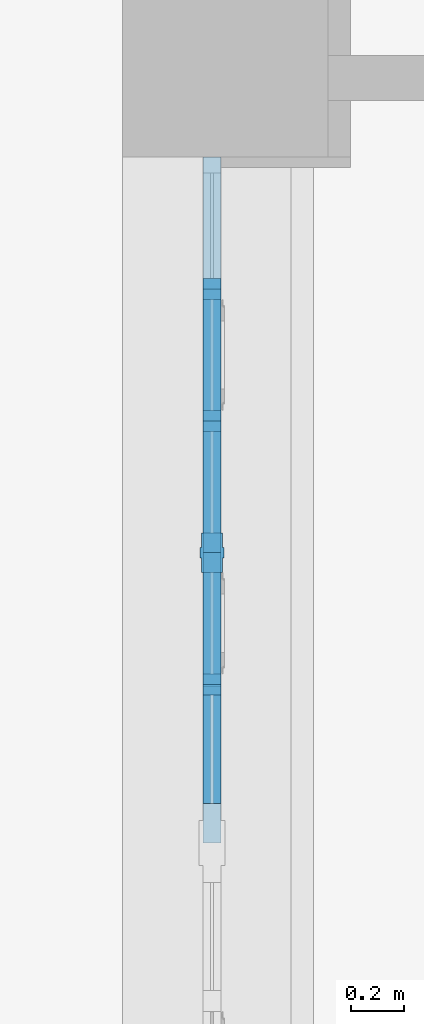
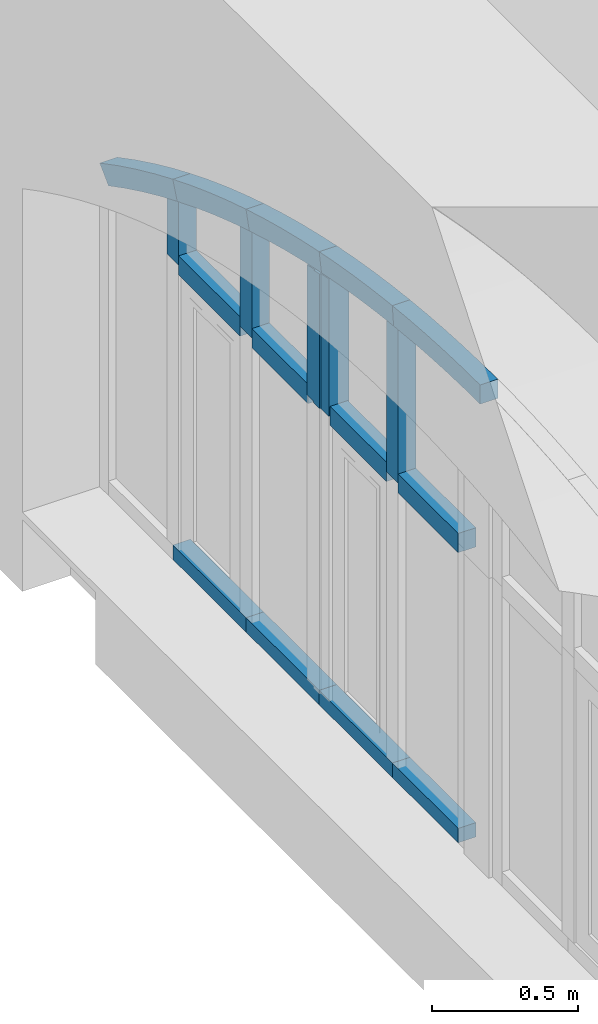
# One storey, part 42 of 88: 17 members, 1 element without a shape of its own.
"""IFC2X3 building model written with IfcOpenShell, lengths in millimetres."""

from ifc_helpers import new_model, entity, si_unit, converted_unit, derived_unit, direction, frame, frame_2d, origin, place, context, subcontext, project, spatial, polyline, circle_curve, parameter, trimmed, segment, composite_curve, rectangle, outline, extrude, faceted_brep, source, transform, mapped, material, type_object, type_shapes, element, aggregate, save


model = new_model("IFC2X3")

# Units and contexts
model_context = context("Model", 3, precision=0.01, world=origin(), true_north=direction((6.123031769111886e-17, 1.0)))
body_context = subcontext(model_context, "Body", "Model", "MODEL_VIEW")
ifc_project = project(units=[si_unit("LENGTHUNIT", "METRE", prefix="MILLI"), si_unit("AREAUNIT", "SQUARE_METRE"), si_unit("VOLUMEUNIT", "CUBIC_METRE"), converted_unit("PLANEANGLEUNIT", "DEGREE", entity("IfcPlaneAngleMeasure", 0.017453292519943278), si_unit("PLANEANGLEUNIT", "RADIAN"), dimensions=[0, 0, 0, 0, 0, 0, 0]), si_unit("MASSUNIT", "GRAM", prefix="KILO"), derived_unit("MASSDENSITYUNIT", [(si_unit("MASSUNIT", "GRAM", prefix="KILO"), 1), (si_unit("LENGTHUNIT", "METRE"), -3)]), derived_unit("IONCONCENTRATIONUNIT", [(si_unit("MASSUNIT", "GRAM", prefix="KILO"), 1), (si_unit("LENGTHUNIT", "METRE"), -3)]), derived_unit("MOMENTOFINERTIAUNIT", [(si_unit("LENGTHUNIT", "METRE"), 4)]), si_unit("TIMEUNIT", "SECOND"), si_unit("FREQUENCYUNIT", "HERTZ"), si_unit("THERMODYNAMICTEMPERATUREUNIT", "DEGREE_CELSIUS"), derived_unit("THERMALTRANSMITTANCEUNIT", [(si_unit("MASSUNIT", "GRAM", prefix="KILO"), 1), (si_unit("THERMODYNAMICTEMPERATUREUNIT", "KELVIN"), -1), (si_unit("TIMEUNIT", "SECOND"), -3)]), derived_unit("THERMALCONDUCTANCEUNIT", [(si_unit("MASSUNIT", "GRAM", prefix="KILO"), 1), (si_unit("THERMODYNAMICTEMPERATUREUNIT", "KELVIN"), -1), (si_unit("TIMEUNIT", "SECOND"), -3), (si_unit("LENGTHUNIT", "METRE"), 1)]), derived_unit("VOLUMETRICFLOWRATEUNIT", [(si_unit("LENGTHUNIT", "METRE", prefix="DECI"), 3), (si_unit("TIMEUNIT", "SECOND"), -1)]), derived_unit("MASSFLOWRATEUNIT", [(si_unit("MASSUNIT", "GRAM", prefix="KILO"), 1), (si_unit("TIMEUNIT", "SECOND"), -1)]), derived_unit("ROTATIONALFREQUENCYUNIT", [(si_unit("TIMEUNIT", "SECOND"), -1)]), si_unit("ELECTRICCURRENTUNIT", "AMPERE"), si_unit("ELECTRICVOLTAGEUNIT", "VOLT"), si_unit("POWERUNIT", "WATT"), si_unit("FORCEUNIT", "NEWTON", prefix="KILO"), si_unit("ILLUMINANCEUNIT", "LUX"), si_unit("LUMINOUSFLUXUNIT", "LUMEN"), si_unit("LUMINOUSINTENSITYUNIT", "CANDELA"), si_unit("ENERGYUNIT", "JOULE"), derived_unit("USERDEFINED", [(si_unit("MASSUNIT", "GRAM", prefix="KILO"), -1), (si_unit("LENGTHUNIT", "METRE"), -2), (si_unit("TIMEUNIT", "SECOND"), 3), (si_unit("LUMINOUSFLUXUNIT", "LUMEN"), 1)]), derived_unit("USERDEFINED", [(si_unit("MASSUNIT", "GRAM", prefix="KILO"), 1), (si_unit("TIMEUNIT", "SECOND"), -3), (si_unit("LENGTHUNIT", "METRE"), 3), (si_unit("ELECTRICCURRENTUNIT", "AMPERE"), -2)]), derived_unit("SOUNDPOWERUNIT", [(si_unit("MASSUNIT", "GRAM", prefix="KILO"), 1), (si_unit("TIMEUNIT", "SECOND"), -3), (si_unit("LENGTHUNIT", "METRE"), 2)]), derived_unit("SOUNDPRESSUREUNIT", [(si_unit("MASSUNIT", "GRAM", prefix="KILO"), 1), (si_unit("LENGTHUNIT", "METRE"), -1), (si_unit("TIMEUNIT", "SECOND"), -2)]), derived_unit("LINEARVELOCITYUNIT", [(si_unit("LENGTHUNIT", "METRE"), 1), (si_unit("TIMEUNIT", "SECOND"), -1)]), si_unit("PRESSUREUNIT", "PASCAL"), derived_unit("USERDEFINED", [(si_unit("MASSUNIT", "GRAM", prefix="KILO"), 1), (si_unit("LENGTHUNIT", "METRE"), -2), (si_unit("TIMEUNIT", "SECOND"), -2)]), derived_unit("LINEARFORCEUNIT", [(si_unit("MASSUNIT", "GRAM", prefix="KILO"), 1), (si_unit("TIMEUNIT", "SECOND"), -2)]), derived_unit("PLANARFORCEUNIT", [(si_unit("MASSUNIT", "GRAM", prefix="KILO"), 1), (si_unit("LENGTHUNIT", "METRE"), -1), (si_unit("TIMEUNIT", "SECOND"), -2)]), derived_unit("SPECIFICHEATCAPACITYUNIT", [(si_unit("THERMODYNAMICTEMPERATUREUNIT", "KELVIN"), -1), (si_unit("LENGTHUNIT", "METRE"), 2), (si_unit("TIMEUNIT", "SECOND"), -2)]), derived_unit("HEATFLUXDENSITYUNIT", [(si_unit("MASSUNIT", "GRAM", prefix="KILO"), 1), (si_unit("TIMEUNIT", "SECOND"), -3)]), derived_unit("HEATINGVALUEUNIT", [(si_unit("LENGTHUNIT", "METRE"), 2), (si_unit("TIMEUNIT", "SECOND"), -2)]), derived_unit("VAPORPERMEABILITYUNIT", [(si_unit("LENGTHUNIT", "METRE"), -1), (si_unit("TIMEUNIT", "SECOND"), 1)]), derived_unit("DYNAMICVISCOSITYUNIT", [(si_unit("MASSUNIT", "GRAM", prefix="KILO"), 1), (si_unit("TIMEUNIT", "SECOND"), -1), (si_unit("LENGTHUNIT", "METRE"), -1)]), derived_unit("THERMALEXPANSIONCOEFFICIENTUNIT", [(si_unit("THERMODYNAMICTEMPERATUREUNIT", "KELVIN"), -1)]), derived_unit("MODULUSOFELASTICITYUNIT", [(si_unit("MASSUNIT", "GRAM", prefix="KILO"), 1), (si_unit("LENGTHUNIT", "METRE"), -1), (si_unit("TIMEUNIT", "SECOND"), -2)]), derived_unit("ISOTHERMALMOISTURECAPACITYUNIT", [(si_unit("MASSUNIT", "GRAM", prefix="KILO"), -1), (si_unit("LENGTHUNIT", "METRE"), 3)]), derived_unit("MOISTUREDIFFUSIVITYUNIT", [(si_unit("TIMEUNIT", "SECOND"), -1), (si_unit("LENGTHUNIT", "METRE"), 2)]), derived_unit("MASSPERLENGTHUNIT", [(si_unit("MASSUNIT", "GRAM", prefix="KILO"), 1), (si_unit("LENGTHUNIT", "METRE"), -1)]), derived_unit("THERMALRESISTANCEUNIT", [(si_unit("MASSUNIT", "GRAM", prefix="KILO"), -1), (si_unit("TIMEUNIT", "SECOND"), 3), (si_unit("THERMODYNAMICTEMPERATUREUNIT", "KELVIN"), 1)]), derived_unit("ACCELERATIONUNIT", [(si_unit("LENGTHUNIT", "METRE"), 1), (si_unit("TIMEUNIT", "SECOND"), -2)]), derived_unit("ANGULARVELOCITYUNIT", [(si_unit("TIMEUNIT", "SECOND"), -1), (si_unit("PLANEANGLEUNIT", "RADIAN"), 1)]), derived_unit("LINEARSTIFFNESSUNIT", [(si_unit("MASSUNIT", "GRAM", prefix="KILO"), 1), (si_unit("TIMEUNIT", "SECOND"), -2)]), derived_unit("WARPINGCONSTANTUNIT", [(si_unit("LENGTHUNIT", "METRE"), 6)]), derived_unit("LINEARMOMENTUNIT", [(si_unit("MASSUNIT", "GRAM", prefix="KILO"), 1), (si_unit("LENGTHUNIT", "METRE"), 1), (si_unit("TIMEUNIT", "SECOND"), -2)]), derived_unit("TORQUEUNIT", [(si_unit("MASSUNIT", "GRAM", prefix="KILO"), 1), (si_unit("LENGTHUNIT", "METRE"), 2), (si_unit("TIMEUNIT", "SECOND"), -2)])], contexts=[model_context])

# Site, building, storey
site_placement = place(None, origin())
site = spatial("IfcSite", under=ifc_project, at=site_placement, Name="Default", CompositionType="ELEMENT")
building_placement = place(site_placement, origin())
building = spatial("IfcBuilding", under=site, at=building_placement, Name="Eesti Rahvusraamatukogu hoone renoveerimise projekteerimistööd", CompositionType="ELEMENT")
storey_placement = place(building_placement, origin())
storey = spatial("IfcBuildingStorey", under=building, at=storey_placement, Name="1. korrus", CompositionType="ELEMENT", Elevation=0.0)

# Curtain wall, members
curtain_wall_type = type_object("IfcCurtainWallType", Name="Curtain Wall:Ak-02", PredefinedType="NOTDEFINED")
curtain_wall_placement = place(storey_placement, origin())
curtain_wall = element("IfcCurtainWall", 1, at=curtain_wall_placement, inside=storey, type_object=curtain_wall_type, Name="Curtain Wall:Ak-02", ObjectType="Curtain Wall:Ak-02")
ifc_material = material(Name="LUMION_dark steel window frames")
member_type_1 = type_object("IfcMemberType", Name="Rectangular Mullion:NEW 80x70mm", PredefinedType="MULLION", material=ifc_material)
shared_shape_1 = source(origin(), body_context, "Body", "SweptSolid", [
    extrude(outline(composite_curve([segment(trimmed(circle_curve(frame_2d((5127.857298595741, 1916.0902897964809), x_axis=(-0.9185017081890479, -0.39541701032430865)), 5520.7156800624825), [parameter(354.2613575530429)], [parameter(359.99999999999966)], True, "PARAMETER"), True, "CONTINUOUS"), segment(polyline([(57.07051603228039, -266.8945992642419), (130.55065268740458, -235.2612384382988)]), True, "CONTINUOUS"), segment(trimmed(circle_curve(frame_2d((5127.857298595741, 1916.0902897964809), x_axis=(-0.9185017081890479, -0.39541701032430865)), 5440.7156800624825), [parameter(354.52804849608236)], [parameter(359.99999999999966)], True, "PARAMETER"), False, "CONTINUOUS"), segment(polyline([(-51.82617782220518, 251.07791885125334), (-135.79499089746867, 251.0779188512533)]), True, "CONTINUOUS")], self_intersect=False)), frame((-53.11529804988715, -35.0, -267.709798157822), z_axis=(0.0, -1.0, 0.0), x_axis=(-0.918501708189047, 0.0, 0.3954170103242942)), (0.0, 0.0, -1.0), 69.99999999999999),
])
type_shapes(member_type_1, [shared_shape_1])
member_1_placement = place(curtain_wall_placement, frame((-36440.0, 41490.0, 3565.5687442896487), z_axis=(0.0, -0.924828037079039, 0.3803854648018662), x_axis=(0.0, 0.3803854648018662, 0.924828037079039)))
member_1 = element("IfcMember", 2, at=member_1_placement, type_object=member_type_1, material=ifc_material, Name="Rectangular Mullion:NEW 80x70mm", ObjectType="Rectangular Mullion:NEW 80x70mm", context=body_context, shape_type="MappedRepresentation", body=[
    mapped(shared_shape_1, transform((0.0, 0.0, 0.0), scale=1.0)),
])
member_type_2 = type_object("IfcMemberType", Name="Rectangular Mullion:NEW 80x70mm", PredefinedType="MULLION", material=ifc_material)
shared_shape_2 = source(origin(), body_context, "Body", "SweptSolid", [
    extrude(outline(composite_curve([segment(polyline([(-52.664386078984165, -263.1530214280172), (27.33561392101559, -263.1530214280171)]), True, "CONTINUOUS"), segment(trimmed(circle_curve(frame_2d((5468.051293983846, -263.1530214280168), x_axis=(-0.9953785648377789, 0.09602870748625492)), 5440.715680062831), [parameter(3.5622212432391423e-13)], [parameter(5.510531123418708)], True, "PARAMETER"), False, "CONTINUOUS"), segment(polyline([(52.479528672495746, 259.31187312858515), (-27.150756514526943, 266.9941697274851)]), True, "CONTINUOUS"), segment(trimmed(circle_curve(frame_2d((5468.051293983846, -263.1530214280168), x_axis=(-0.9953785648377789, 0.09602870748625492)), 5520.715680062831), [parameter(3.5622212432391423e-13)], [parameter(5.510531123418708)], True, "PARAMETER"), True, "CONTINUOUS")], self_intersect=False)), frame((-52.66438607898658, -35.0, -263.1530214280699), z_axis=(0.0, 1.0, 0.0), x_axis=(-0.9953785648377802, 0.0, 0.09602870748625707)), (0.0, 0.0, 1.0), 69.99999999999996),
])
type_shapes(member_type_2, [shared_shape_2])
member_2_placement = place(curtain_wall_placement, frame((-36440.0, 40990.0, 3743.6333100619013), z_axis=(0.0, -0.9570819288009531, 0.28981749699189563), x_axis=(0.0, 0.28981749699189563, 0.9570819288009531)))
member_2 = element("IfcMember", 3, at=member_2_placement, type_object=member_type_2, material=ifc_material, Name="Rectangular Mullion:NEW 80x70mm", ObjectType="Rectangular Mullion:NEW 80x70mm", context=body_context, shape_type="MappedRepresentation", body=[
    mapped(shared_shape_2, transform((0.0, 0.0, 0.0), scale=1.0)),
])
member_type_3 = type_object("IfcMemberType", Name="Rectangular Mullion:NEW 80x70mm", PredefinedType="MULLION", material=ifc_material)
shared_shape_3 = source(origin(), body_context, "Body", "SweptSolid", [
    extrude(outline(composite_curve([segment(polyline([(-51.955427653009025, -255.69780513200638), (28.04457234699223, -255.69780513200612)]), True, "CONTINUOUS"), segment(trimmed(circle_curve(frame_2d((5468.760252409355, -255.69780513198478), x_axis=(-0.9956372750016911, 0.09330818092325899)), 5440.715680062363), [parameter(3.5622212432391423e-13)], [parameter(5.353953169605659)], True, "PARAMETER"), False, "CONTINUOUS"), segment(polyline([(51.78091865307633, 251.96547789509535), (-27.870063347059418, 259.4301323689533)]), True, "CONTINUOUS"), segment(trimmed(circle_curve(frame_2d((5468.760252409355, -255.69780513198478), x_axis=(-0.9956372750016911, 0.09330818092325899)), 5520.715680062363), [parameter(3.5622212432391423e-13)], [parameter(5.353953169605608)], True, "PARAMETER"), True, "CONTINUOUS")], self_intersect=False)), frame((-51.95542765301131, -35.0, -255.69780513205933), z_axis=(0.0, 1.0, 0.0), x_axis=(-0.9956372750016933, 0.0, 0.09330818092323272)), (0.0, 0.0, 1.0), 70.00000000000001),
])
type_shapes(member_type_3, [shared_shape_3])
member_3_placement = place(curtain_wall_placement, frame((-36440.0, 40490.0, 3869.8747326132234), z_axis=(0.0, -0.9799487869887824, 0.19924952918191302), x_axis=(0.0, 0.19924952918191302, 0.9799487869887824)))
member_3 = element("IfcMember", 4, at=member_3_placement, type_object=member_type_3, material=ifc_material, Name="Rectangular Mullion:NEW 80x70mm", ObjectType="Rectangular Mullion:NEW 80x70mm", context=body_context, shape_type="MappedRepresentation", body=[
    mapped(shared_shape_3, transform((0.0, 0.0, 0.0), scale=1.0)),
])
member_type_4 = type_object("IfcMemberType", Name="Rectangular Mullion:NEW 80x70mm", PredefinedType="MULLION", material=ifc_material)
shared_shape_4 = source(origin(), body_context, "Body", "SweptSolid", [
    extrude(outline(composite_curve([segment(polyline([(-51.51245202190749, -250.9261639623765), (28.487547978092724, -250.92616396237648)]), True, "CONTINUOUS"), segment(trimmed(circle_curve(frame_2d((5469.203228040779, -250.92616396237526), x_axis=(-0.99579892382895, 0.0915669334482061)), 5440.715680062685), [parameter(3.5622212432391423e-13)], [parameter(5.2537580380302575)], True, "PARAMETER"), False, "CONTINUOUS"), segment(polyline([(51.344408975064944, 247.26348662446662), (-28.319504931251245, 254.58884130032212)]), True, "CONTINUOUS"), segment(trimmed(circle_curve(frame_2d((5469.203228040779, -250.92616396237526), x_axis=(-0.99579892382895, 0.0915669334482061)), 5520.715680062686), [parameter(3.5622212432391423e-13)], [parameter(5.2537580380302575)], True, "PARAMETER"), True, "CONTINUOUS")], self_intersect=False)), frame((-51.51245202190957, -35.0, -250.92616396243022), z_axis=(0.0, 1.0, 0.0), x_axis=(-0.995798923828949, 0.0, 0.09156693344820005)), (0.0, 0.0, 1.0), 70.00000000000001),
])
type_shapes(member_type_4, [shared_shape_4])
member_4_placement = place(curtain_wall_placement, frame((-36440.0, 39990.0, 3947.8704590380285), z_axis=(0.0, -0.9940766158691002, 0.1086815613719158), x_axis=(0.0, 0.1086815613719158, 0.9940766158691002)))
member_4 = element("IfcMember", 5, at=member_4_placement, type_object=member_type_4, material=ifc_material, Name="Rectangular Mullion:NEW 80x70mm", ObjectType="Rectangular Mullion:NEW 80x70mm", context=body_context, shape_type="MappedRepresentation", body=[
    mapped(shared_shape_4, transform((0.0, 0.0, 0.0), scale=1.0)),
])
member_type_5 = type_object("IfcMemberType", Name="Rectangular Mullion:NEW 80x70mm", PredefinedType="MULLION", material=ifc_material)
shared_shape_5 = source(origin(), body_context, "Body", "SweptSolid", [
    extrude(outline(composite_curve([segment(polyline([(-56.232192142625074, -297.82636877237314), (23.767807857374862, -297.82636877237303)]), True, "CONTINUOUS"), segment(trimmed(circle_curve(frame_2d((5464.483487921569, -297.8263687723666), x_axis=(-0.9940766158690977, 0.10868156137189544)), 5440.715680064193), [parameter(3.5622212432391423e-13)], [parameter(6.239318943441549)], True, "PARAMETER"), False, "CONTINUOUS"), segment(polyline([(55.99525677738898, 293.47910631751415), (-23.53087249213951, 302.1736312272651)]), True, "CONTINUOUS"), segment(trimmed(circle_curve(frame_2d((5464.483487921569, -297.8263687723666), x_axis=(-0.9940766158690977, 0.10868156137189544)), 5520.715680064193), [parameter(3.5622212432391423e-13)], [parameter(6.239318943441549)], True, "PARAMETER"), True, "CONTINUOUS")], self_intersect=False)), frame((-56.232192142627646, -35.0, -297.8263687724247), z_axis=(0.0, 1.0, 0.0), x_axis=(-0.9940766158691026, 0.0, 0.1086815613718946)), (0.0, 0.0, 1.0), 69.99999999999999),
])
type_shapes(member_type_5, [shared_shape_5])
member_5_placement = place(curtain_wall_placement, frame((-36440.0, 39390.0, 3980.5717786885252), z_axis=(0.0, -1.0, 0.0), x_axis=(0.0, 0.0, 1.0)))
member_5 = element("IfcMember", 6, at=member_5_placement, type_object=member_type_5, material=ifc_material, Name="Rectangular Mullion:NEW 80x70mm", ObjectType="Rectangular Mullion:NEW 80x70mm", context=body_context, shape_type="MappedRepresentation", body=[
    mapped(shared_shape_5, transform((0.0, 0.0, 0.0), scale=1.0)),
])
member_type_6 = type_object("IfcMemberType", Name="Rectangular Mullion:NEW 80x70mm", PredefinedType="MULLION", material=ifc_material)
shared_shape_6 = source(origin(), body_context, "Body", "SweptSolid", [
    extrude(outline(composite_curve([segment(polyline([(-151.82490852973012, -33.91383256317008), (113.68279751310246, -33.91383256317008)]), True, "CONTINUOUS"), segment(trimmed(circle_curve(frame_2d((-4921.968809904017, -2093.9138325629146), x_axis=(0.9570819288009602, 0.2898174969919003)), 5440.715680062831), [parameter(5.401610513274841)], [parameter(5.510531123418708)], True, "PARAMETER"), True, "CONTINUOUS"), segment(trimmed(circle_curve(frame_2d((-4921.968809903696, -2093.9138325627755), x_axis=(0.9248280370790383, 0.38038546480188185)), 5440.7156800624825), [parameter(0.0)], [parameter(0.8043376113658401)], True, "PARAMETER"), True, "CONTINUOUS"), segment(polyline([(80.20942675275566, 46.08616743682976), (-151.82490852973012, 46.08616743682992)]), True, "CONTINUOUS"), segment(polyline([(-151.82490852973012, 46.08616743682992), (-151.82490852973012, -33.91383256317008)]), True, "CONTINUOUS")], self_intersect=False)), frame((6.086167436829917, -35.0, -151.82490852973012), z_axis=(0.0, 1.0, 0.0), x_axis=(0.0, 0.0, -1.0)), (0.0, 0.0, 1.0), 69.99999999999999),
])
type_shapes(member_type_6, [shared_shape_6])
member_6_placement = place(curtain_wall_placement, frame((-36440.0, 41490.0, 3230.0), z_axis=(0.0, 0.0, -1.0), x_axis=(0.0, -1.0, 0.0)))
member_6 = element("IfcMember", 7, at=member_6_placement, type_object=member_type_6, material=ifc_material, Name="Rectangular Mullion:NEW 80x70mm", ObjectType="Rectangular Mullion:NEW 80x70mm", context=body_context, shape_type="MappedRepresentation", body=[
    mapped(shared_shape_6, transform((0.0, 0.0, 0.0), scale=1.0)),
])
member_type_7 = type_object("IfcMemberType", Name="Rectangular Mullion:NEW 80x70mm", PredefinedType="MULLION", material=ifc_material)
shared_shape_7 = source(origin(), body_context, "Body", "SweptSolid", [
    extrude(outline(composite_curve([segment(polyline([(-259.34177632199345, -35.36292004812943), (182.78706183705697, -35.36292004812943)]), True, "CONTINUOUS"), segment(trimmed(circle_curve(frame_2d((-5029.485677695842, -1595.3629200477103), x_axis=(0.9799487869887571, 0.19924952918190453)), 5440.715680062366), [parameter(5.169029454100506)], [parameter(5.353953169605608)], True, "PARAMETER"), True, "CONTINUOUS"), segment(trimmed(circle_curve(frame_2d((-5029.48567769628, -1595.362920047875), x_axis=(0.9570819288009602, 0.2898174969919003)), 5440.715680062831), [parameter(0.0)], [parameter(0.6965383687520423)], True, "PARAMETER"), True, "CONTINUOUS"), segment(polyline([(158.17151137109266, 44.63707995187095), (-259.34177632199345, 44.63707995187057)]), True, "CONTINUOUS"), segment(polyline([(-259.34177632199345, 44.63707995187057), (-259.34177632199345, -35.36292004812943)]), True, "CONTINUOUS")], self_intersect=False)), frame((4.637079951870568, -35.0, -259.34177632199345), z_axis=(0.0, 1.0, 0.0), x_axis=(0.0, 0.0, -1.0)), (0.0, 0.0, 1.0), 70.00000000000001),
])
type_shapes(member_type_7, [shared_shape_7])
member_7_placement = place(curtain_wall_placement, frame((-36440.0, 40990.0, 3230.0), z_axis=(0.0, 0.0, -1.0), x_axis=(0.0, -1.0, 0.0)))
member_7 = element("IfcMember", 8, at=member_7_placement, type_object=member_type_7, material=ifc_material, Name="Rectangular Mullion:NEW 80x70mm", ObjectType="Rectangular Mullion:NEW 80x70mm", context=body_context, shape_type="MappedRepresentation", body=[
    mapped(shared_shape_7, transform((0.0, 0.0, 0.0), scale=1.0)),
])
member_type_8 = type_object("IfcMemberType", Name="Rectangular Mullion:NEW 150x90mm", PredefinedType="MULLION", material=ifc_material)
shared_shape_8 = source(origin(), body_context, "Body", "Brep", [
    faceted_brep([(-20.0, -40.0, 0.0), (-20.0, -45.0, 0.0), (20.0, -45.0, 0.0), (20.0, -40.0, 0.0), (75.0, -40.0, 0.0), (75.0, 40.0, 0.0), (20.0, 40.0, 0.0), (20.0, 45.0, 0.0), (-20.0, 45.0, 0.0), (-20.0, 40.0, 0.0), (-75.0, 40.0, 0.0), (-75.0, -40.0, 0.0), (-20.0, 40.0, -554.0449674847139), (-47.51534075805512, 40.0, -548.1824945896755), (-75.0, 40.0, -542.1778237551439), (75.0, 40.0, -573.1474168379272), (47.48603249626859, 40.0, -567.7959127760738), (20.0, 40.0, -562.3027332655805), (-75.0, -40.0, -542.1778237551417), (-47.515340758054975, -40.0, -548.1824945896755), (-20.0, -40.0, -554.0449674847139), (20.0, -40.0, -562.30273326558), (47.48603249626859, -40.0, -567.7959127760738), (75.0, -40.0, -573.1474168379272), (-20.0, -45.0, -554.0449674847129), (-20.0, 45.0, -554.0449674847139), (-2.036281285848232, -45.0, -557.7922042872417), (15.939962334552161, -45.0, -561.4788296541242), (17.969902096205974, -45.0, -561.8911677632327), (20.0, -45.0, -562.3027332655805), (20.0, 45.0, -562.30273326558), (17.969902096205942, 45.0, -561.8911677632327), (15.939962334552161, 45.0, -561.4788296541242), (-2.036281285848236, 45.0, -557.7922042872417), (15.939962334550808, 33.74999999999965, -561.4788296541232), (15.939962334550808, 22.499999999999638, -561.4788296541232), (15.939962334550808, 0.0, -561.4788296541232), (15.939962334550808, -22.500000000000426, -561.4788296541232), (15.939962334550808, -33.75000000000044, -561.4788296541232)], [[[0, 1, 2, 3, 4, 5, 6, 7, 8, 9, 10, 11]], [[10, 9, 12, 13, 14]], [[6, 5, 15, 16, 17]], [[11, 10, 14, 18]], [[0, 11, 18, 19, 20]], [[4, 3, 21, 22, 23]], [[1, 0, 20, 24]], [[9, 8, 25, 12]], [[1, 24, 26, 27, 28, 29, 2]], [[3, 2, 29, 21]], [[7, 6, 17, 30]], [[5, 4, 23, 15]], [[7, 30, 31, 32, 33, 25, 8]], [[26, 33, 32, 34, 35, 36, 37, 38, 27]], [[20, 12, 25, 33, 26, 24]], [[20, 19, 13, 12]], [[19, 18, 14, 13]], [[15, 23, 22, 16]], [[17, 35, 34, 32]], [[21, 27, 38, 37]], [[16, 35, 17]], [[21, 37, 22]], [[36, 35, 16, 22, 37]], [[27, 21, 28]], [[31, 30, 17]], [[28, 21, 29]], [[17, 32, 31]]]),
])
type_shapes(member_type_8, [shared_shape_8])
member_8_placement = place(curtain_wall_placement, frame((-36440.0, 40490.0, 3230.0), z_axis=(0.0, 0.0, -1.0), x_axis=(0.0, -1.0, 0.0)))
member_8 = element("IfcMember", 9, at=member_8_placement, type_object=member_type_8, material=ifc_material, Name="Rectangular Mullion:NEW 150x90mm", ObjectType="Rectangular Mullion:NEW 150x90mm", context=body_context, shape_type="MappedRepresentation", body=[
    mapped(shared_shape_8, transform((0.0, 0.0, 0.0), scale=1.0)),
])
member_type_9 = type_object("IfcMemberType", Name="Rectangular Mullion:NEW 80x70mm", PredefinedType="MULLION", material=ifc_material)
shared_shape_9 = source(origin(), body_context, "Body", "SweptSolid", [
    extrude(outline(composite_curve([segment(polyline([(-382.563636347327, -38.261095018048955), (259.11166761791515, -38.261095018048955)]), True, "CONTINUOUS"), segment(trimmed(circle_curve(frame_2d((-5152.707537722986, -598.2610950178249), x_axis=(1.0, 0.0)), 5440.715680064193), [parameter(5.907781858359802)], [parameter(6.239318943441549)], True, "PARAMETER"), True, "CONTINUOUS"), segment(trimmed(circle_curve(frame_2d((-5152.707537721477, -598.2610950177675), x_axis=(0.994076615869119, 0.10868156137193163)), 5440.715680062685), [parameter(0.0)], [parameter(0.5161152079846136)], True, "PARAMETER"), True, "CONTINUOUS"), segment(polyline([(250.23491165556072, 41.73890498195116), (-382.563636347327, 41.738904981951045)]), True, "CONTINUOUS"), segment(polyline([(-382.563636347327, 41.738904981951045), (-382.563636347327, -38.261095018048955)]), True, "CONTINUOUS")], self_intersect=False)), frame((1.7389049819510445, -35.0, -382.563636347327), z_axis=(0.0, 1.0, 0.0), x_axis=(0.0, 0.0, -1.0)), (0.0, 0.0, 1.0), 69.99999999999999),
])
type_shapes(member_type_9, [shared_shape_9])
member_9_placement = place(curtain_wall_placement, frame((-36440.0, 39990.0, 3230.0), z_axis=(0.0, 0.0, -1.0), x_axis=(0.0, -1.0, 0.0)))
member_9 = element("IfcMember", 10, at=member_9_placement, type_object=member_type_9, material=ifc_material, Name="Rectangular Mullion:NEW 80x70mm", ObjectType="Rectangular Mullion:NEW 80x70mm", context=body_context, shape_type="MappedRepresentation", body=[
    mapped(shared_shape_9, transform((0.0, 0.0, 0.0), scale=1.0)),
])
member_type_10 = type_object("IfcMemberType", Name="Rectangular Mullion:NEW 80x70mm", PredefinedType="MULLION", material=ifc_material)
shared_shape_10 = source(origin(), body_context, "Body", "SweptSolid", [
    extrude(rectangle(XDim=80.0, YDim=70.0, at=frame_2d((0.0, -3.552713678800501e-15), x_axis=(1.0, 0.0))), frame((0.0, 0.0, -420.0), z_axis=(0.0, 0.0, 1.0), x_axis=(-1.0, 0.0, 0.0)), (0.0, 0.0, 1.0), 419.999999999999),
])
type_shapes(member_type_10, [shared_shape_10])
member_10_placement = place(curtain_wall_placement, frame((-36440.0, 41030.0, 3230.0), z_axis=(0.0, -1.0, 0.0), x_axis=(0.0, 0.0, 1.0)))
member_10 = element("IfcMember", 11, at=member_10_placement, type_object=member_type_10, material=ifc_material, Name="Rectangular Mullion:NEW 80x70mm", ObjectType="Rectangular Mullion:NEW 80x70mm", context=body_context, shape_type="MappedRepresentation", body=[
    mapped(shared_shape_10, transform((0.0, 0.0, 0.0), scale=1.0)),
])
member_type_11 = type_object("IfcMemberType", Name="Rectangular Mullion:NEW 80x70mm", PredefinedType="MULLION", material=ifc_material)
shared_shape_11 = source(origin(), body_context, "Body", "SweptSolid", [
    extrude(rectangle(XDim=80.0, YDim=70.0, at=frame_2d((0.0, -3.552713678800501e-15), x_axis=(1.0, 0.0))), frame((0.0, 0.0, -385.0), z_axis=(0.0, 0.0, 1.0), x_axis=(-1.0, 0.0, 0.0)), (0.0, 0.0, 1.0), 384.99999999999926),
])
type_shapes(member_type_11, [shared_shape_11])
member_11_placement = place(curtain_wall_placement, frame((-36440.0, 40565.0, 3230.0), z_axis=(0.0, -1.0, 0.0), x_axis=(0.0, 0.0, 1.0)))
member_11 = element("IfcMember", 12, at=member_11_placement, type_object=member_type_11, material=ifc_material, Name="Rectangular Mullion:NEW 80x70mm", ObjectType="Rectangular Mullion:NEW 80x70mm", context=body_context, shape_type="MappedRepresentation", body=[
    mapped(shared_shape_11, transform((0.0, 0.0, 0.0), scale=1.0)),
])
member_12_placement = place(curtain_wall_placement, frame((-36440.0, 40030.0, 3230.0), z_axis=(0.0, -1.0, 0.0), x_axis=(0.0, 0.0, 1.0)))
member_12 = element("IfcMember", 13, at=member_12_placement, type_object=member_type_11, material=ifc_material, Name="Rectangular Mullion:NEW 80x70mm", ObjectType="Rectangular Mullion:NEW 80x70mm", context=body_context, shape_type="MappedRepresentation", body=[
    mapped(shared_shape_11, transform((0.0, 0.0, 0.0), scale=1.0)),
])
member_type_12 = type_object("IfcMemberType", Name="Rectangular Mullion:NEW 80x70mm", PredefinedType="MULLION", material=ifc_material)
shared_shape_12 = source(origin(), body_context, "Body", "SweptSolid", [
    extrude(rectangle(XDim=80.0, YDim=70.0, at=frame_2d((0.0, -3.552713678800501e-15), x_axis=(1.0, 0.0))), frame((0.0, 0.0, -410.0), z_axis=(0.0, 0.0, 1.0), x_axis=(-1.0, 0.0, 0.0)), (0.0, 0.0, 1.0), 409.9999999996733),
])
type_shapes(member_type_12, [shared_shape_12])
member_13_placement = place(curtain_wall_placement, frame((-36440.0, 39540.0, 3230.0), z_axis=(0.0, -1.0, 0.0), x_axis=(0.0, 0.0, 1.0)))
member_13 = element("IfcMember", 14, at=member_13_placement, type_object=member_type_12, material=ifc_material, Name="Rectangular Mullion:NEW 80x70mm", ObjectType="Rectangular Mullion:NEW 80x70mm", context=body_context, shape_type="MappedRepresentation", body=[
    mapped(shared_shape_12, transform((0.0, 0.0, 0.0), scale=1.0)),
])
member_type_13 = type_object("IfcMemberType", Name="Rectangular Mullion:NEW 60x70mm", PredefinedType="MULLION", material=ifc_material)
shared_shape_13 = source(origin(), body_context, "Body", "SweptSolid", [
    extrude(rectangle(XDim=60.0, YDim=70.0, at=frame_2d((0.0, 3.552713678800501e-15), x_axis=(1.0, 0.0))), frame((-30.0, 0.0, -500.0), z_axis=(0.0, 0.0, 1.0), x_axis=(-1.0, 0.0, 0.0)), (0.0, 0.0, 1.0), 499.999999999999),
])
type_shapes(member_type_13, [shared_shape_13])
member_14_placement = place(curtain_wall_placement, frame((-36440.0, 41490.0, 1980.0), z_axis=(0.0, 1.0, 0.0), x_axis=(0.0, 0.0, -1.0)))
member_14 = element("IfcMember", 15, at=member_14_placement, type_object=member_type_13, material=ifc_material, Name="Rectangular Mullion:NEW 60x70mm", ObjectType="Rectangular Mullion:NEW 60x70mm", context=body_context, shape_type="MappedRepresentation", body=[
    mapped(shared_shape_13, transform((0.0, 0.0, 0.0), scale=1.0)),
])
member_15_placement = place(curtain_wall_placement, frame((-36440.0, 40990.0, 1980.0), z_axis=(0.0, 1.0, 0.0), x_axis=(0.0, 0.0, -1.0)))
member_15 = element("IfcMember", 16, at=member_15_placement, type_object=member_type_13, material=ifc_material, Name="Rectangular Mullion:NEW 60x70mm", ObjectType="Rectangular Mullion:NEW 60x70mm", context=body_context, shape_type="MappedRepresentation", body=[
    mapped(shared_shape_13, transform((0.0, 0.0, 0.0), scale=1.0)),
])
member_16_placement = place(curtain_wall_placement, frame((-36440.0, 40490.0, 1980.0), z_axis=(0.0, 1.0, 0.0), x_axis=(0.0, 0.0, -1.0)))
member_16 = element("IfcMember", 17, at=member_16_placement, type_object=member_type_13, material=ifc_material, Name="Rectangular Mullion:NEW 60x70mm", ObjectType="Rectangular Mullion:NEW 60x70mm", context=body_context, shape_type="MappedRepresentation", body=[
    mapped(shared_shape_13, transform((0.0, 0.0, 0.0), scale=1.0)),
])
member_type_14 = type_object("IfcMemberType", Name="Rectangular Mullion:NEW 60x70mm", PredefinedType="MULLION", material=ifc_material)
shared_shape_14 = source(origin(), body_context, "Body", "SweptSolid", [
    extrude(rectangle(XDim=60.0, YDim=70.0, at=frame_2d((0.0, 3.552713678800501e-15), x_axis=(1.0, 0.0))), frame((-30.0, 0.0, -450.0), z_axis=(0.0, 0.0, 1.0), x_axis=(-1.0, 0.0, 0.0)), (0.0, 0.0, 1.0), 449.99999999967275),
])
type_shapes(member_type_14, [shared_shape_14])
member_17_placement = place(curtain_wall_placement, frame((-36440.0, 39990.0, 1980.0), z_axis=(0.0, 1.0, 0.0), x_axis=(0.0, 0.0, -1.0)))
member_17 = element("IfcMember", 18, at=member_17_placement, type_object=member_type_14, material=ifc_material, Name="Rectangular Mullion:NEW 60x70mm", ObjectType="Rectangular Mullion:NEW 60x70mm", context=body_context, shape_type="MappedRepresentation", body=[
    mapped(shared_shape_14, transform((0.0, 0.0, 0.0), scale=1.0)),
])
aggregate(curtain_wall, [member_1, member_2, member_3, member_4, member_5, member_6, member_7, member_8, member_9, member_10, member_11, member_12, member_13, member_14, member_15, member_16, member_17])

save(model, "model.ifc")
